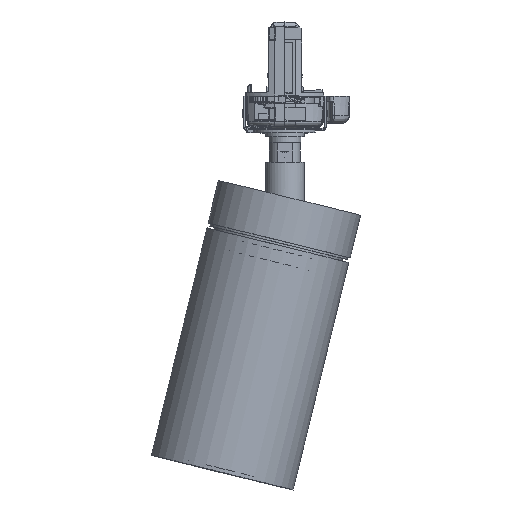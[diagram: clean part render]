
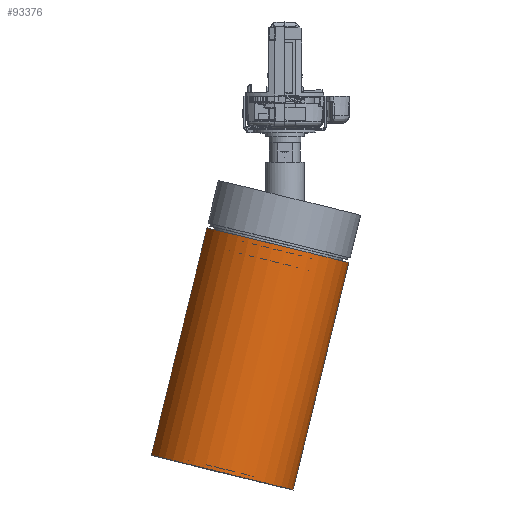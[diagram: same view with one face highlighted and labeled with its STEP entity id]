
A CAD part, top view. The second image highlights one B-rep face of the part: STEP entity #93376.
In plain terms, the highlighted cylindrical face has radius 30 mm (diameter 60 mm), a full revolution.
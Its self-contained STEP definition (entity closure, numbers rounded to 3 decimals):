
#2211=CYLINDRICAL_SURFACE('',#101374,30.);
#7538=FACE_OUTER_BOUND('',#12512,.T.);
#12512=EDGE_LOOP('',(#80975,#80976,#80977,#80978));
#22678=LINE('',#200972,#30366);
#30366=VECTOR('',#124773,30.);
#33320=CIRCLE('',#101373,30.);
#33321=CIRCLE('',#101375,30.);
#41671=VERTEX_POINT('',#200967);
#41672=VERTEX_POINT('',#200970);
#54800=EDGE_CURVE('',#41671,#41671,#33320,.T.);
#54801=EDGE_CURVE('',#41672,#41672,#33321,.T.);
#54802=EDGE_CURVE('',#41672,#41671,#22678,.T.);
#80975=ORIENTED_EDGE('',*,*,#54801,.F.);
#80976=ORIENTED_EDGE('',*,*,#54802,.T.);
#80977=ORIENTED_EDGE('',*,*,#54800,.F.);
#80978=ORIENTED_EDGE('',*,*,#54802,.F.);
#93376=ADVANCED_FACE('',(#7538),#2211,.T.);
#101373=AXIS2_PLACEMENT_3D('',#200968,#124767,#124768);
#101374=AXIS2_PLACEMENT_3D('',#200969,#124769,#124770);
#101375=AXIS2_PLACEMENT_3D('',#200971,#124771,#124772);
#124767=DIRECTION('center_axis',(-0.238,-0.971,
0.001));
#124768=DIRECTION('ref_axis',(0.102,-0.024,0.995));
#124769=DIRECTION('center_axis',(0.238,0.971,-0.001));
#124770=DIRECTION('ref_axis',(0.102,-0.024,0.995));
#124771=DIRECTION('center_axis',(0.238,0.971,-0.001));
#124772=DIRECTION('ref_axis',(0.102,-0.024,0.995));
#124773=DIRECTION('',(-0.238,-0.971,0.001));
#200967=CARTESIAN_POINT('',(-28.688,-139.795,-42.116));
#200968=CARTESIAN_POINT('Origin',(-25.634,-140.511,-12.28));
#200969=CARTESIAN_POINT('Origin',(-14.23,-93.885,-12.33));
#200970=CARTESIAN_POINT('',(-5.881,-46.544,-42.215));
#200971=CARTESIAN_POINT('Origin',(-2.827,-47.259,-12.38));
#200972=CARTESIAN_POINT('',(-17.284,-93.17,-42.166));
